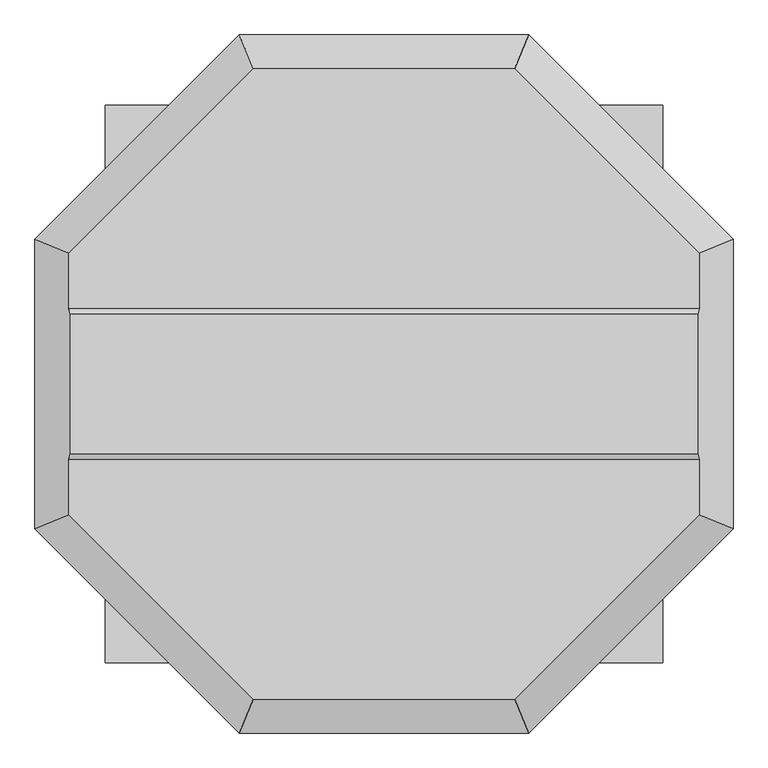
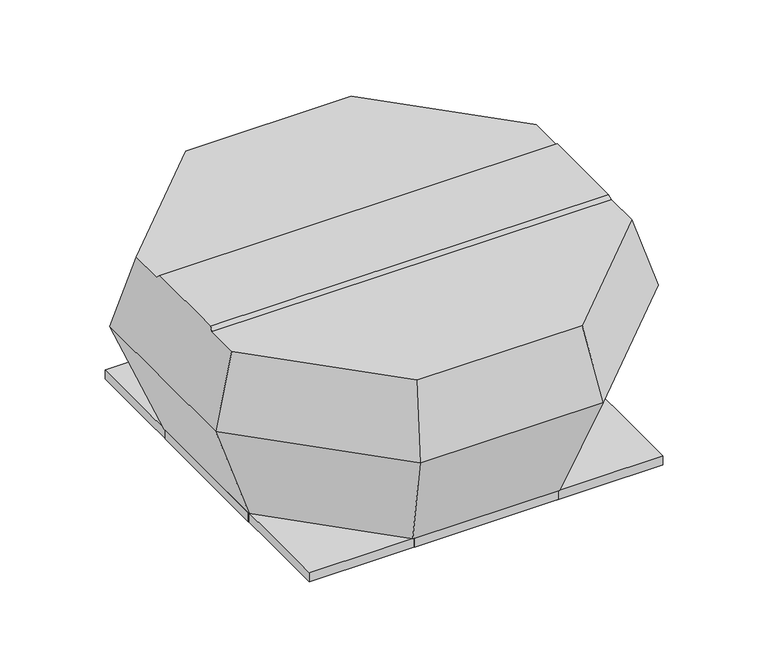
"""IFC4 building model written with IfcOpenShell, lengths in millimetres: unitary equipment geometry, VE-Wentylator-ParaForma-Harmann-VIVER_PT-Wywiewny : 4-560/12000PT."""

from ifc_helpers import new_model, si_unit, origin, place, context, project, spatial, faceted_brep, source, transform, mapped, element, save


def unitary_equipment_32682d47(model_context):
    return source(origin(), model_context, "Body", "Brep", [
        faceted_brep([(523.500596, -116.75, 497.2), (523.500596, 116.75, 497.2), (-523.500596, 116.75, 497.2), (-523.500596, -116.75, 497.2), (526.1778459, 125.75, 488.3), (-526.1778459, 125.75, 488.3), (526.1778459, -125.75, 488.3), (-526.1778459, -125.75, 488.3), (217.95, -526.1778459, 488.3), (526.1778459, -217.95, 488.3), (-526.1778459, -217.95, 488.3), (-217.95, -526.1778459, 488.3), (526.1778459, 217.95, 488.3), (217.95, 526.1778459, 488.3), (-217.95, 526.1778459, 488.3), (-526.1778459, 217.95, 488.3), (241.4, -582.791154, 300.1), (582.791154, -241.4, 300.1), (582.791154, 241.4, 300.1), (241.4, 582.791154, 300.1), (-241.4, 582.791154, 300.1), (-582.791154, 241.4, 300.1), (-582.791154, -241.4, 300.1), (-241.4, -582.791154, 300.1), (193.3, -466.6674816, 1.5), (-193.3, -466.6674816, 1.5), (-466.6674816, -193.3, 1.5), (-466.6674816, 193.3, 1.5), (-193.3, 466.6674816, 1.5), (193.3, 466.6674816, 1.5), (466.6674816, 193.3, 1.5), (466.6674816, -193.3, 1.5)], [[[0, 1, 2, 3]], [[1, 4, 5, 2]], [[6, 0, 3, 7]], [[8, 9, 6, 7, 10, 11]], [[12, 13, 14, 15, 5, 4]], [[9, 8, 16, 17]], [[9, 17, 18, 12, 4, 1, 0, 6]], [[13, 12, 18, 19]], [[14, 13, 19, 20]], [[15, 14, 20, 21]], [[15, 21, 22, 10, 7, 3, 2, 5]], [[11, 10, 22, 23]], [[8, 11, 23, 16]], [[24, 25, 26, 27, 28, 29, 30, 31]], [[24, 31, 17, 16]], [[31, 30, 18, 17]], [[30, 29, 19, 18]], [[29, 28, 20, 19]], [[28, 27, 21, 20]], [[27, 26, 22, 21]], [[26, 25, 23, 22]], [[25, 24, 16, 23]]]),
        faceted_brep([(464.05, 464.05, -23.5), (464.05, 464.05, 0.0), (-464.05, 464.05, 0.0), (-464.05, 464.05, -23.5), (465.55, 465.55, 1.5), (465.55, 465.55, -23.5), (-465.55, 465.55, -23.5), (-465.55, 465.55, 1.5), (-464.05, -464.05, 0.0), (-464.05, -464.05, -23.5), (-465.55, -465.55, -23.5), (-465.55, -465.55, 1.5), (464.05, -464.05, 0.0), (464.05, -464.05, -23.5), (465.55, -465.55, -23.5), (465.55, -465.55, 1.5)], [[[0, 1, 2, 3]], [[4, 5, 6, 7]], [[3, 2, 8, 9]], [[7, 6, 10, 11]], [[9, 8, 12, 13]], [[11, 10, 14, 15]], [[13, 12, 1, 0]], [[5, 14, 10, 6], [3, 9, 13, 0]], [[15, 14, 5, 4]], [[7, 11, 15, 4]], [[1, 12, 8, 2]]]),
        faceted_brep([(-465.6, -190.1, -23.5), (-466.6, -190.1, -23.5), (-466.6, 190.1, -23.5), (-465.6, 190.1, -23.5), (-465.6, -190.1, 1.5), (-465.6, 190.1, 1.5), (-466.6, 190.1, 1.5), (-466.6, -190.1, 1.5)], [[[0, 1, 2, 3]], [[4, 5, 6, 7]], [[1, 0, 4, 7]], [[2, 1, 7, 6]], [[3, 2, 6, 5]], [[0, 3, 5, 4]]]),
        faceted_brep([(466.6, -190.1, -23.5), (465.6, -190.1, -23.5), (465.6, 190.1, -23.5), (466.6, 190.1, -23.5), (466.6, 190.1, 1.5), (465.6, 190.1, 1.5), (465.6, 5.0, 1.5), (465.6, -5.0, 1.5), (465.6, -190.1, 1.5), (466.6, -190.1, 1.5), (466.6, -5.0, 1.5), (466.6, 5.0, 1.5)], [[[0, 1, 2, 3]], [[4, 5, 6, 7, 8, 9, 10, 11]], [[1, 0, 9, 8]], [[2, 1, 8, 7, 6, 5]], [[3, 2, 5, 4]], [[0, 3, 4, 11, 10, 9]]]),
        faceted_brep([(190.1, 465.6, -23.5), (-190.1, 465.6, -23.5), (-190.1, 466.6, -23.5), (190.1, 466.6, -23.5), (190.1, 465.6, 1.5), (190.1, 466.6, 1.5), (-190.1, 466.6, 1.5), (-190.1, 465.6, 1.5)], [[[0, 1, 2, 3]], [[4, 5, 6, 7]], [[1, 0, 4, 7]], [[2, 1, 7, 6]], [[3, 2, 6, 5]], [[0, 3, 5, 4]]]),
        faceted_brep([(190.1, -466.6, -23.5), (-190.1, -466.6, -23.5), (-190.1, -465.6, -23.5), (190.1, -465.6, -23.5), (190.1, -466.6, 1.5), (190.1, -465.6, 1.5), (-190.1, -465.6, 1.5), (-190.1, -466.6, 1.5)], [[[0, 1, 2, 3]], [[4, 5, 6, 7]], [[1, 0, 4, 7]], [[2, 1, 7, 6]], [[3, 2, 6, 5]], [[0, 3, 5, 4]]]),
    ])


if __name__ == "__main__":
    model = new_model("IFC4")
    model_context = context("Model", 3, world=origin())
    ifc_project = project(units=[si_unit("LENGTHUNIT", "METRE", prefix="MILLI")], contexts=[model_context])
    site = spatial("IfcSite", under=ifc_project)
    building = spatial("IfcBuilding", under=site)
    placement = place(None, origin())
    unitary_equipment_shape = unitary_equipment_32682d47(model_context)
    element("IfcUnitaryEquipment", 1, ObjectType="VE-Wentylator-ParaForma-Harmann-VIVER_PT-Wywiewny : 4-560/12000PT", at=placement, inside=building, context=model_context, shape_type="MappedRepresentation", body=[
        mapped(unitary_equipment_shape, transform((0.0, 0.0, 0.0), x_axis=(1.0, 0.0, 0.0), y_axis=(0.0, 1.0, 0.0), z_axis=(0.0, 0.0, 1.0))),
    ])
    save(model, "model.ifc")
